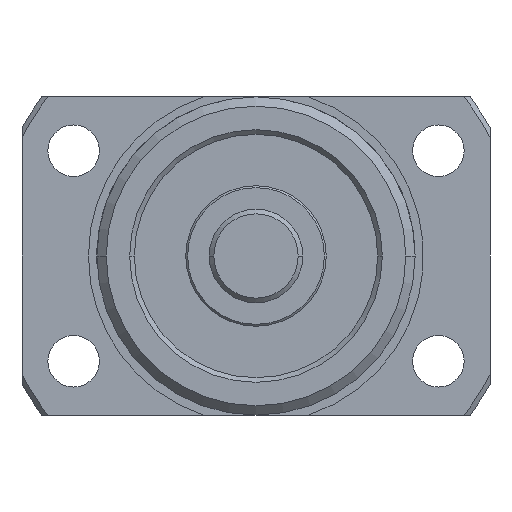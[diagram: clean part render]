
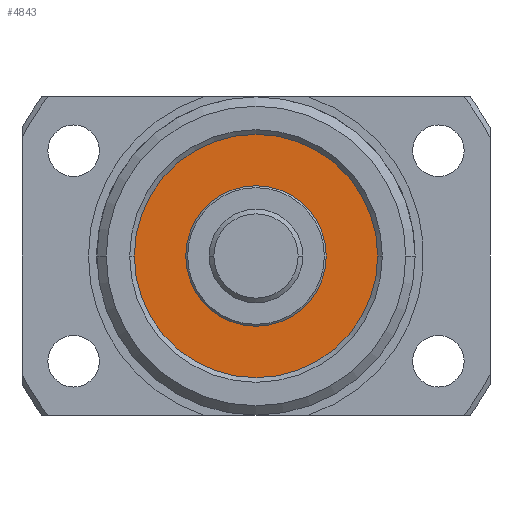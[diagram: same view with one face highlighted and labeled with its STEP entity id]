
A CAD part, left-side view. The second image highlights one B-rep face of the part: STEP entity #4843.
In plain terms, the highlighted planar face has unit normal (-1, 0, 0).
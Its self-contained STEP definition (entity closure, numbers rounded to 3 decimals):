
#206 = VERTEX_POINT ( 'NONE', #5192 ) ;
#209 = VERTEX_POINT ( 'NONE', #5199 ) ;
#275 = VERTEX_POINT ( 'NONE', #5176 ) ;
#281 = VERTEX_POINT ( 'NONE', #5180 ) ;
#332 = CIRCLE ( 'NONE', #1178, 13. ) ;
#518 = FACE_BOUND ( 'NONE', #1997, .T. ) ;
#522 = FACE_OUTER_BOUND ( 'NONE', #1992, .T. ) ;
#859 = AXIS2_PLACEMENT_3D ( 'NONE', #3523, #3522, #3526 ) ;
#951 = EDGE_CURVE ( 'NONE', #206, #209, #5587, .T. ) ;
#961 = AXIS2_PLACEMENT_3D ( 'NONE', #4988, #4987, #4986 ) ;
#1020 = AXIS2_PLACEMENT_3D ( 'NONE', #3835, #2790, #2789 ) ;
#1121 = AXIS2_PLACEMENT_3D ( 'NONE', #1848, #1849, #1850 ) ;
#1178 = AXIS2_PLACEMENT_3D ( 'NONE', #3212, #3213, #3214 ) ;
#1848 = CARTESIAN_POINT ( 'NONE',  ( -53.5, 0., 0. ) ) ;
#1849 = DIRECTION ( 'NONE',  ( -1., 0., 0. ) ) ;
#1850 = DIRECTION ( 'NONE',  ( 0., -1., 0. ) ) ;
#1992 = EDGE_LOOP ( 'NONE', ( #5342, #5343 ) ) ;
#1997 = EDGE_LOOP ( 'NONE', ( #5340, #5341 ) ) ;
#2073 = EDGE_CURVE ( 'NONE', #281, #275, #5679, .T. ) ;
#2789 = DIRECTION ( 'NONE',  ( 0., -1., 0. ) ) ;
#2790 = DIRECTION ( 'NONE',  ( -1., 0., 0. ) ) ;
#3157 = EDGE_CURVE ( 'NONE', #275, #281, #4653, .T. ) ;
#3212 = CARTESIAN_POINT ( 'NONE',  ( -53.5, 0., 0. ) ) ;
#3213 = DIRECTION ( 'NONE',  ( -1., 0., 0. ) ) ;
#3214 = DIRECTION ( 'NONE',  ( 0., -1., 0. ) ) ;
#3522 = DIRECTION ( 'NONE',  ( -1., 0., 0. ) ) ;
#3523 = CARTESIAN_POINT ( 'NONE',  ( -53.5, 0., 0. ) ) ;
#3524 = PLANE ( 'NONE',  #859 ) ;
#3526 = DIRECTION ( 'NONE',  ( 0., -1., 0. ) ) ;
#3835 = CARTESIAN_POINT ( 'NONE',  ( -53.5, 0., 0. ) ) ;
#4117 = EDGE_CURVE ( 'NONE', #209, #206, #332, .T. ) ;
#4653 = CIRCLE ( 'NONE', #1121, 7.5 ) ;
#4843 = ADVANCED_FACE ( 'NONE', ( #518, #522 ), #3524, .T. ) ;
#4986 = DIRECTION ( 'NONE',  ( 0., -1., 0. ) ) ;
#4987 = DIRECTION ( 'NONE',  ( -1., 0., 0. ) ) ;
#4988 = CARTESIAN_POINT ( 'NONE',  ( -53.5, 0., 0. ) ) ;
#5176 = CARTESIAN_POINT ( 'NONE',  ( -53.5, 0., -7.5 ) ) ;
#5180 = CARTESIAN_POINT ( 'NONE',  ( -53.5, 0., 7.5 ) ) ;
#5192 = CARTESIAN_POINT ( 'NONE',  ( -53.5, -13., 0. ) ) ;
#5199 = CARTESIAN_POINT ( 'NONE',  ( -53.5, 13., 0. ) ) ;
#5340 = ORIENTED_EDGE ( 'NONE', *, *, #3157, .F. ) ;
#5341 = ORIENTED_EDGE ( 'NONE', *, *, #2073, .F. ) ;
#5342 = ORIENTED_EDGE ( 'NONE', *, *, #951, .T. ) ;
#5343 = ORIENTED_EDGE ( 'NONE', *, *, #4117, .T. ) ;
#5587 = CIRCLE ( 'NONE', #961, 13. ) ;
#5679 = CIRCLE ( 'NONE', #1020, 7.5 ) ;
